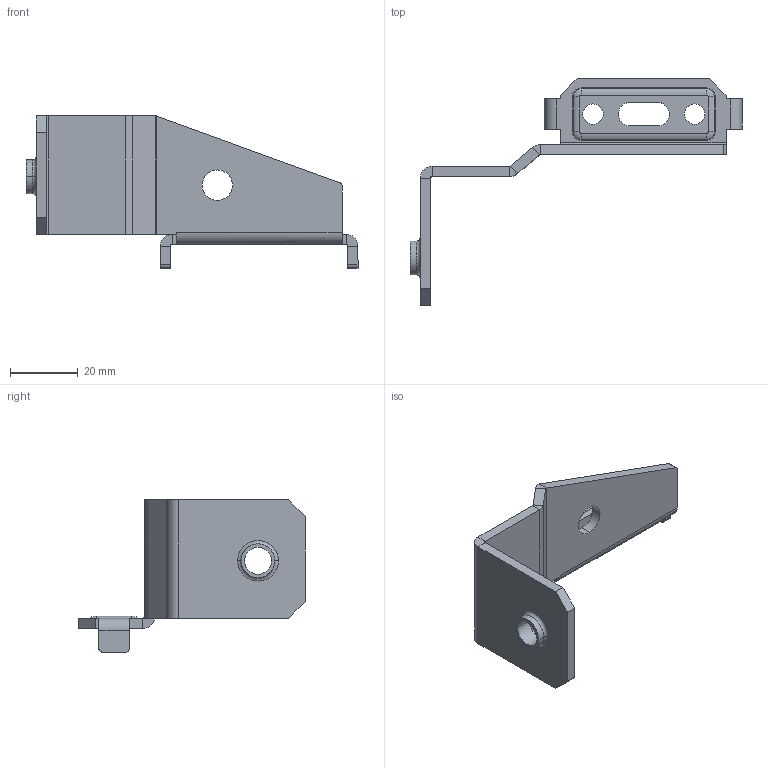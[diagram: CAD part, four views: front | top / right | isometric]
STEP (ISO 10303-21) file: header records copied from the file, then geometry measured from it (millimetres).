
FILE_DESCRIPTION (( 'STEP AP203' ), '1' );
FILE_NAME ('MPBB06_V0.STEP', '2018-04-18T08:22:28', ( '' ), ( '' ), 'SwSTEP 2.0', 'SolidWorks 2017', '' );
FILE_SCHEMA (( 'CONFIG_CONTROL_DESIGN' ));
Length unit declared in the file: millimetre
Products named in the file (2): MPBB06_V0
Bounding box: 98.04 x 67 x 45 mm (x, y, z)
Volume: 14911.7 mm3; surface area: 11575.3 mm2
Topology: 1 solids, 1 shells, 127 faces, 299 edges, 177 vertices
Faces by surface type: plane 60, cylinder 46, torus 20, bspline 1
Entity records: 3787 total; most frequent: DIRECTION 676, CARTESIAN_POINT 624, ORIENTED_EDGE 598, EDGE_CURVE 299, AXIS2_PLACEMENT_3D 251, VERTEX_POINT 177, VECTOR 174, LINE 174
